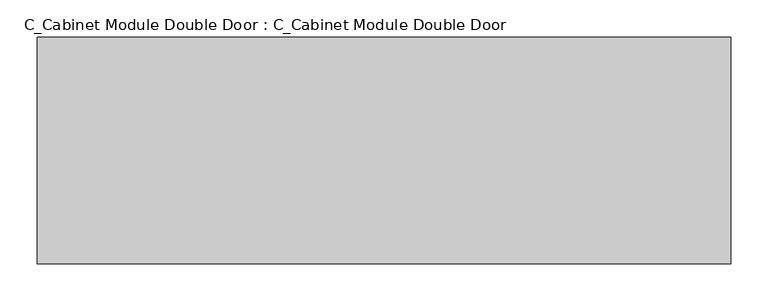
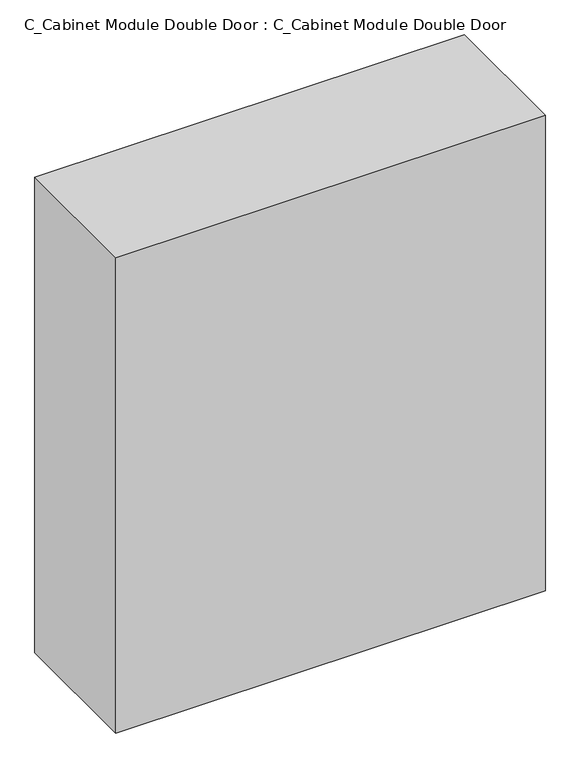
"""IFC4 building model written with IfcOpenShell, lengths in millimetres: furniture geometry, C_Cabinet Module Double Door : C_Cabinet Module Double Door."""

from ifc_helpers import new_model, si_unit, origin, origin_with_axes, place, context, project, spatial, polyline, outline, extrude, source, transform, mapped, element, save


def c_cabinet_module_double_door_c_cabinet_module_double_door_f6c91c58(model_context):
    return source(origin(), model_context, "Body", "SweptSolid", [
        extrude(outline(polyline([(466.725, 0.0), (-466.725, 0.0), (-466.725, 304.8), (466.725, 304.8), (466.725, 0.0)])), origin_with_axes(), (0.0, 0.0, 1.0), 1092.2),
    ])


if __name__ == "__main__":
    model = new_model("IFC4")
    model_context = context("Model", 3, world=origin())
    ifc_project = project(units=[si_unit("LENGTHUNIT", "METRE", prefix="MILLI")], contexts=[model_context])
    site = spatial("IfcSite", under=ifc_project)
    building = spatial("IfcBuilding", under=site)
    placement = place(None, origin())
    c_cabinet_module_double_door_c_cabinet_module_double_door_shape = c_cabinet_module_double_door_c_cabinet_module_double_door_f6c91c58(model_context)
    element("IfcFurniture", 1, ObjectType="C_Cabinet Module Double Door : C_Cabinet Module Double Door", at=placement, inside=building, context=model_context, shape_type="MappedRepresentation", body=[
        mapped(c_cabinet_module_double_door_c_cabinet_module_double_door_shape, transform((0.0, 0.0, 0.0), x_axis=(1.0, 0.0, 0.0), y_axis=(0.0, 1.0, 0.0), z_axis=(0.0, 0.0, 1.0))),
    ])
    save(model, "model.ifc")
